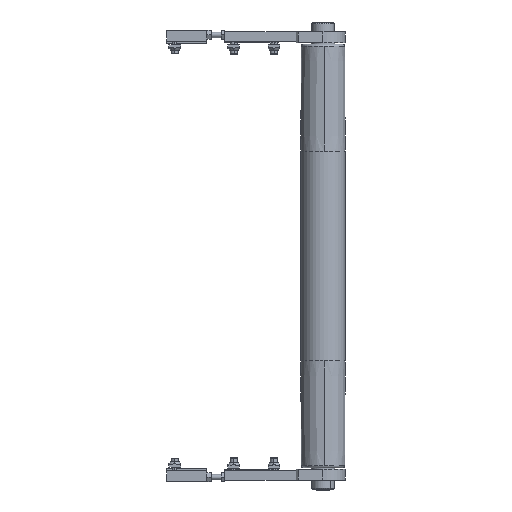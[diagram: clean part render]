
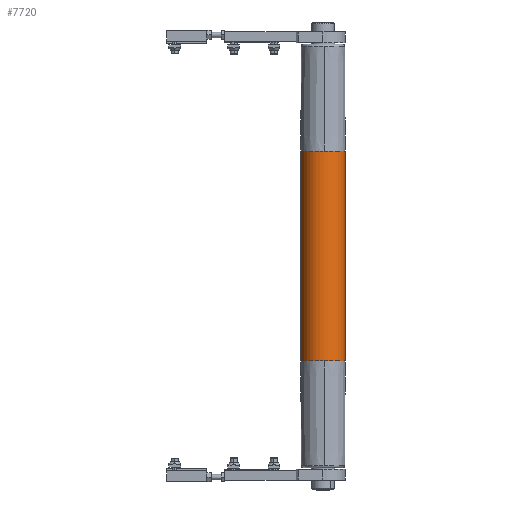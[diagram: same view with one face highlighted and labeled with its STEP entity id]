
A CAD part, front view. The second image highlights one B-rep face of the part: STEP entity #7720.
In plain terms, the highlighted cylindrical face has radius 25 mm (diameter 50 mm), a partial arc.
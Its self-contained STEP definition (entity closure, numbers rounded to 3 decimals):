
#85 = ORIENTED_EDGE ( 'NONE', *, *, #12067, .F. ) ;
#399 = DIRECTION ( 'NONE',  ( -1., 0., 0. ) ) ;
#634 = CARTESIAN_POINT ( 'NONE',  ( 235., 0., -25. ) ) ;
#933 = AXIS2_PLACEMENT_3D ( 'NONE', #2246, #10001, #12007 ) ;
#1238 = ORIENTED_EDGE ( 'NONE', *, *, #8744, .F. ) ;
#1527 = CARTESIAN_POINT ( 'NONE',  ( 117.5, 0., 0. ) ) ;
#1581 = AXIS2_PLACEMENT_3D ( 'NONE', #9119, #399, #4219 ) ;
#1597 = CARTESIAN_POINT ( 'NONE',  ( 117.5, 0., 25. ) ) ;
#1601 = CIRCLE ( 'NONE', #8759, 25. ) ;
#2008 = ORIENTED_EDGE ( 'NONE', *, *, #2085, .F. ) ;
#2085 = EDGE_CURVE ( 'NONE', #5270, #4321, #1601, .T. ) ;
#2246 = CARTESIAN_POINT ( 'NONE',  ( -117.5, 0., 0. ) ) ;
#2600 = DIRECTION ( 'NONE',  ( 0., -1., 0. ) ) ;
#2729 = CARTESIAN_POINT ( 'NONE',  ( -117.5, 0., -25. ) ) ;
#4045 = VERTEX_POINT ( 'NONE', #2729 ) ;
#4136 = CARTESIAN_POINT ( 'NONE',  ( -117.5, 25., 0. ) ) ;
#4188 = CARTESIAN_POINT ( 'NONE',  ( -117.5, 0., 25. ) ) ;
#4219 = DIRECTION ( 'NONE',  ( 0., -1., 0. ) ) ;
#4321 = VERTEX_POINT ( 'NONE', #4136 ) ;
#4736 = CARTESIAN_POINT ( 'NONE',  ( 235., 0., 25. ) ) ;
#4970 = CARTESIAN_POINT ( 'NONE',  ( 117.5, 0., -25. ) ) ;
#5029 = DIRECTION ( 'NONE',  ( -1., 0., 0. ) ) ;
#5270 = VERTEX_POINT ( 'NONE', #4188 ) ;
#5394 = CIRCLE ( 'NONE', #933, 25. ) ;
#5805 = AXIS2_PLACEMENT_3D ( 'NONE', #8942, #5029, #9907 ) ;
#5862 = EDGE_LOOP ( 'NONE', ( #9186, #8402, #7073, #1238, #2008, #85 ) ) ;
#5932 = CARTESIAN_POINT ( 'NONE',  ( 117.5, 25., 0. ) ) ;
#6690 = EDGE_CURVE ( 'NONE', #11789, #4045, #12376, .T. ) ;
#6777 = FACE_OUTER_BOUND ( 'NONE', #5862, .T. ) ;
#6939 = VECTOR ( 'NONE', #11273, 1000. ) ;
#7073 = ORIENTED_EDGE ( 'NONE', *, *, #6690, .T. ) ;
#7442 = VECTOR ( 'NONE', #9615, 1000. ) ;
#7720 = ADVANCED_FACE ( 'NONE', ( #6777 ), #11619, .T. ) ;
#8183 = DIRECTION ( 'NONE',  ( -1., 0., 0. ) ) ;
#8402 = ORIENTED_EDGE ( 'NONE', *, *, #8752, .T. ) ;
#8562 = AXIS2_PLACEMENT_3D ( 'NONE', #1527, #8183, #12020 ) ;
#8744 = EDGE_CURVE ( 'NONE', #4321, #4045, #5394, .T. ) ;
#8752 = EDGE_CURVE ( 'NONE', #10630, #11789, #9962, .T. ) ;
#8759 = AXIS2_PLACEMENT_3D ( 'NONE', #10451, #11416, #2600 ) ;
#8942 = CARTESIAN_POINT ( 'NONE',  ( 235., 0., 0. ) ) ;
#9119 = CARTESIAN_POINT ( 'NONE',  ( 117.5, 0., 0. ) ) ;
#9129 = EDGE_CURVE ( 'NONE', #11865, #10630, #9949, .T. ) ;
#9186 = ORIENTED_EDGE ( 'NONE', *, *, #9129, .T. ) ;
#9615 = DIRECTION ( 'NONE',  ( -1., 0., 0. ) ) ;
#9907 = DIRECTION ( 'NONE',  ( 0., 0., 1. ) ) ;
#9949 = CIRCLE ( 'NONE', #8562, 25. ) ;
#9962 = CIRCLE ( 'NONE', #1581, 25. ) ;
#10001 = DIRECTION ( 'NONE',  ( -1., 0., 0. ) ) ;
#10026 = LINE ( 'NONE', #4736, #7442 ) ;
#10451 = CARTESIAN_POINT ( 'NONE',  ( -117.5, 0., 0. ) ) ;
#10630 = VERTEX_POINT ( 'NONE', #5932 ) ;
#11273 = DIRECTION ( 'NONE',  ( -1., 0., 0. ) ) ;
#11416 = DIRECTION ( 'NONE',  ( -1., 0., 0. ) ) ;
#11619 = CYLINDRICAL_SURFACE ( 'NONE', #5805, 25. ) ;
#11789 = VERTEX_POINT ( 'NONE', #4970 ) ;
#11865 = VERTEX_POINT ( 'NONE', #1597 ) ;
#12007 = DIRECTION ( 'NONE',  ( 0., -1., 0. ) ) ;
#12020 = DIRECTION ( 'NONE',  ( 0., -1., 0. ) ) ;
#12067 = EDGE_CURVE ( 'NONE', #11865, #5270, #10026, .T. ) ;
#12376 = LINE ( 'NONE', #634, #6939 ) ;
